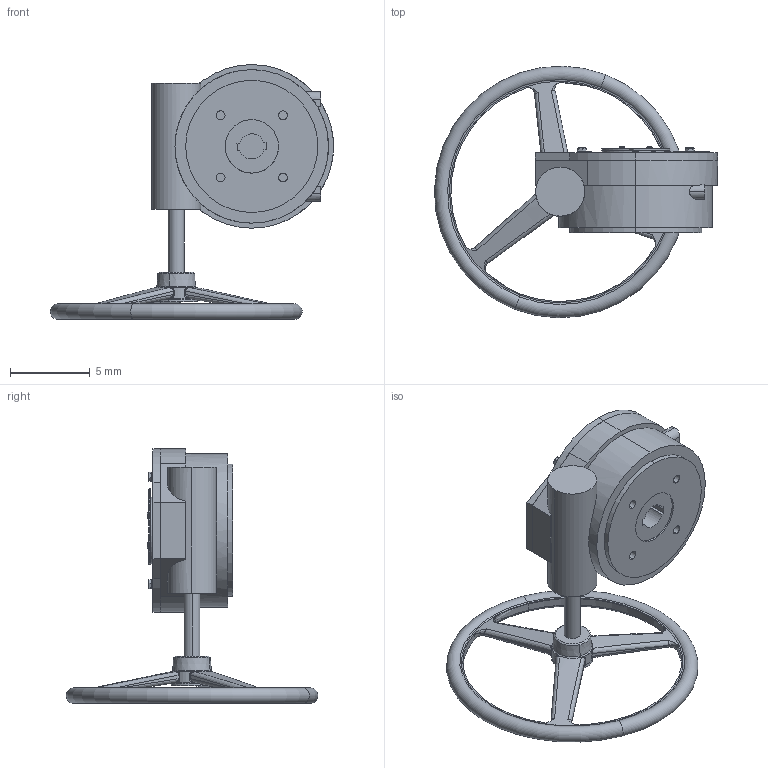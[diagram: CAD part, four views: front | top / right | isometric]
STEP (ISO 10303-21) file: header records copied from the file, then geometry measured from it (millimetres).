
FILE_DESCRIPTION(('Open CASCADE Model'),'2;1');
FILE_NAME('Open CASCADE Shape Model','2022-09-14T09:44:29',('Author'),( 'Open CASCADE'),'Open CASCADE STEP processor 7.3','Open CASCADE 7.3' ,'Unknown');
FILE_SCHEMA(('AUTOMOTIVE_DESIGN { 1 0 10303 214 1 1 1 1 }'));
Length unit declared in the file: millimetre
Products named in the file (18): Open CASCADE STEP translator 7.3 1; Open CASCADE STEP translator 7.3 1.1; Open CASCADE STEP translator 7.3 1.2; Open CASCADE STEP translator 7.3 1.3; Open CASCADE STEP translator 7.3 1.4; Open CASCADE STEP translator 7.3 1.5; Open CASCADE STEP translator 7.3 1.6; Open CASCADE STEP translator 7.3 1.7; Open CASCADE STEP translator 7.3 1.8; Open CASCADE STEP translator 7.3 1.9; Open CASCADE STEP translator 7.3 1.10; Open CASCADE STEP translator 7.3 1.11; Open CASCADE STEP translator 7.3 1.12; Open CASCADE STEP translator 7.3 1.13; Open CASCADE STEP translator 7.3 1.14; Open CASCADE STEP translator 7.3 1.15; Open CASCADE STEP translator 7.3 1.16; Open CASCADE STEP translator 7.3 1.17
Assembly tree (17 placements, depth 2):
  Open CASCADE STEP translator 7.3 1
    Open CASCADE STEP translator 7.3 1.1
    Open CASCADE STEP translator 7.3 1.2
    Open CASCADE STEP translator 7.3 1.3
    Open CASCADE STEP translator 7.3 1.4
    Open CASCADE STEP translator 7.3 1.5
    Open CASCADE STEP translator 7.3 1.6
    Open CASCADE STEP translator 7.3 1.7
    Open CASCADE STEP translator 7.3 1.8
    Open CASCADE STEP translator 7.3 1.9
    Open CASCADE STEP translator 7.3 1.10
    Open CASCADE STEP translator 7.3 1.11
    Open CASCADE STEP translator 7.3 1.12
    Open CASCADE STEP translator 7.3 1.13
    Open CASCADE STEP translator 7.3 1.14
    Open CASCADE STEP translator 7.3 1.15
    Open CASCADE STEP translator 7.3 1.16
    Open CASCADE STEP translator 7.3 1.17
Bounding box: 17.73 x 15.75 x 15.96 mm (x, y, z)
Volume: 303.9 mm3; surface area: 1187.3 mm2
Topology: 17 solids, 17 shells, 946 faces, 2532 edges, 1647 vertices
Faces by surface type: plane 277, bspline 259, cylinder 205, cone 105, torus 100
Entity records: 167339 total; most frequent: CARTESIAN_POINT 123370, DIRECTION 6040, ORIENTED_EDGE 5036, PCURVE 5036, DEFINITIONAL_REPRESENTATION 5036, B_SPLINE_CURVE_WITH_KNOTS 3366, LINE 3074, VECTOR 3074
